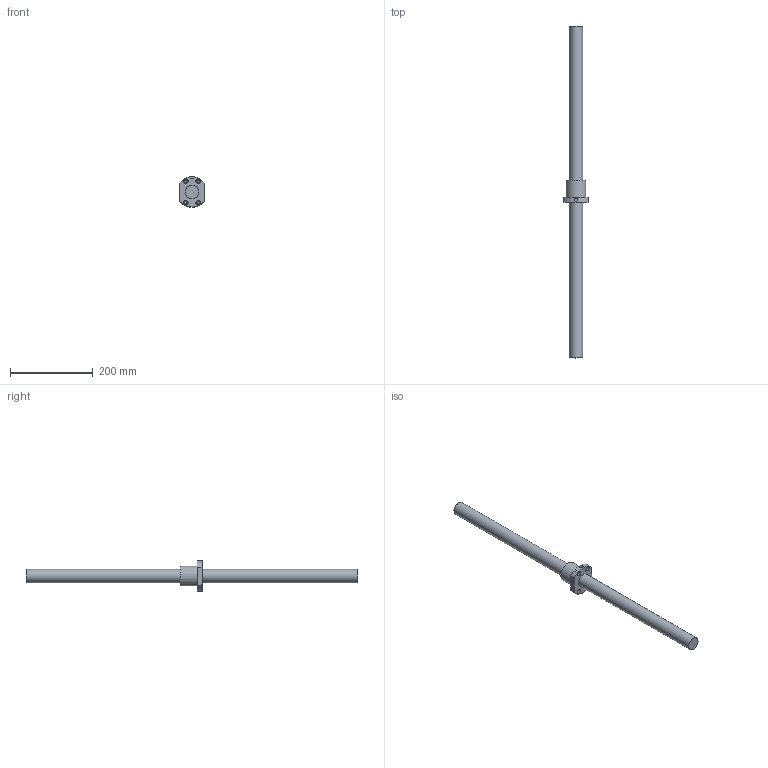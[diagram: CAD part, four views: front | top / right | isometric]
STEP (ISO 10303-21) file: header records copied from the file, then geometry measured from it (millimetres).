
FILE_DESCRIPTION(/* description */ (''),/* implementation_level */ '2;1');
FILE_NAME(/* name */ 'SFM0325T-4-D-NoneNone-800.stp',/* time_stamp */ '2014-09-10T16:12:56+08:00',/* author */ (''),/* organization */ (''),/* preprocessor_version */ 'ST-DEVELOPER v11',/* originating_system */ 'SIEMENS UGS NX 6.0',/* authorisation */ '');
FILE_SCHEMA (('AUTOMOTIVE_DESIGN { 1 0 10303 214 1 1 1 1 }'));
Length unit declared in the file: millimetre
Products named in the file (1): SFM0325T-4-D-NoneNone-800
Bounding box: 60 x 800 x 73.92 mm (x, y, z)
Volume: 718134.9 mm3; surface area: 103535.1 mm2
Topology: 2 solids, 2 shells, 29 faces, 58 edges, 39 vertices
Faces by surface type: cylinder 14, plane 12, torus 3
Full cylindrical faces by diameter (mm): 6.5 x4, 8 x1, 11 x4, 32 x2, 48 x1
Entity records: 843 total; most frequent: CARTESIAN_POINT 227, DIRECTION 128, ORIENTED_EDGE 86, AXIS2_PLACEMENT_3D 60, EDGE_LOOP 58, FACE_BOUND 50, EDGE_CURVE 43, VERTEX_POINT 37
